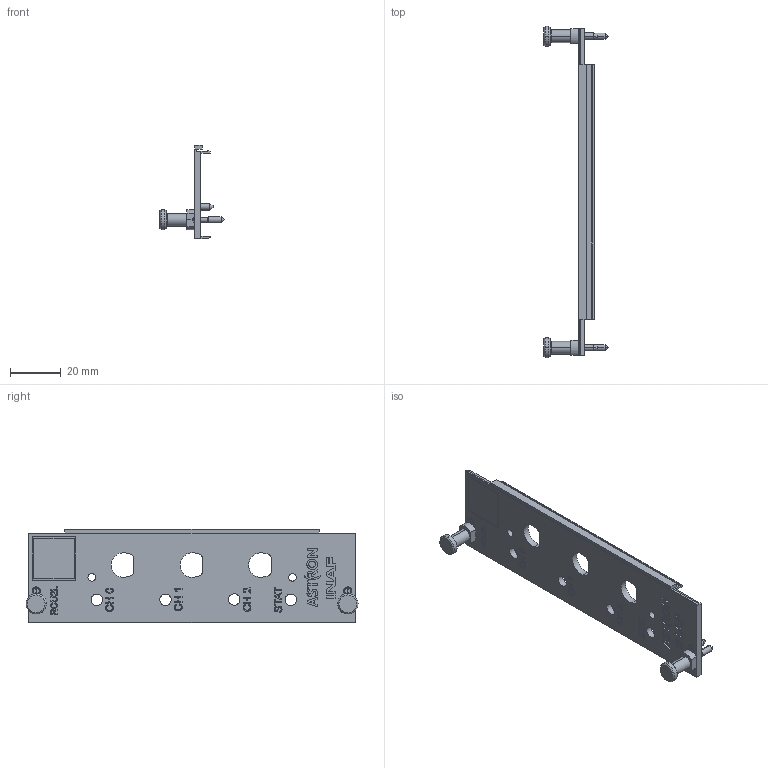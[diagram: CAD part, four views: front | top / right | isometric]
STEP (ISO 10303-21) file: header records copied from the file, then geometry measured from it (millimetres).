
FILE_DESCRIPTION(/* description */ (''),/* implementation_level */ '2;1');
FILE_NAME(/* name */ '015378_01-RCU2L_assy front panel.stp',/* time_stamp */ '2023-05-30T09:10:12+02:00',/* author */ (''),/* organization */ (''),/* preprocessor_version */ 'ST-DEVELOPER v18.1',/* originating_system */ 'SIEMENS PLM Software NX 1973',/* authorisation */ '');
FILE_SCHEMA (('AUTOMOTIVE_DESIGN { 1 0 10303 214 3 1 1 1 }'));
Length unit declared in the file: millimetre
Products named in the file (5): 015369_01-Front panel EMC gasket_3U; 014987_02-RCU2L_front panel; 015370_01-Front panel sleeve_M2-5; 015371_01-Collar Screw_ Knurled Head Long Version; 015378_01-RCU2L_assy front panel
Assembly tree (6 placements, depth 2):
  015378_01-RCU2L_assy front panel
    015371_01-Collar Screw_ Knurled Head Long Version  x2
    015370_01-Front panel sleeve_M2-5  x2
    014987_02-RCU2L_front panel
    015369_01-Front panel EMC gasket_3U
Bounding box: 25.3 x 130.4 x 36.72 mm (x, y, z)
Volume: 12287.1 mm3; surface area: 13561.4 mm2
Topology: 8 solids, 8 shells, 357 faces, 1077 edges, 793 vertices
Faces by surface type: plane 207, cylinder 81, cone 36, torus 20, extrusion 11, sphere 2
Full cylindrical faces by diameter (mm): 3 x2, 4.5 x4
Entity records: 13068 total; most frequent: CARTESIAN_POINT 3828, ORIENTED_EDGE 1842, DIRECTION 1539, EDGE_CURVE 921, VERTEX_POINT 702, VECTOR 605, LINE 594, AXIS2_PLACEMENT_3D 467
